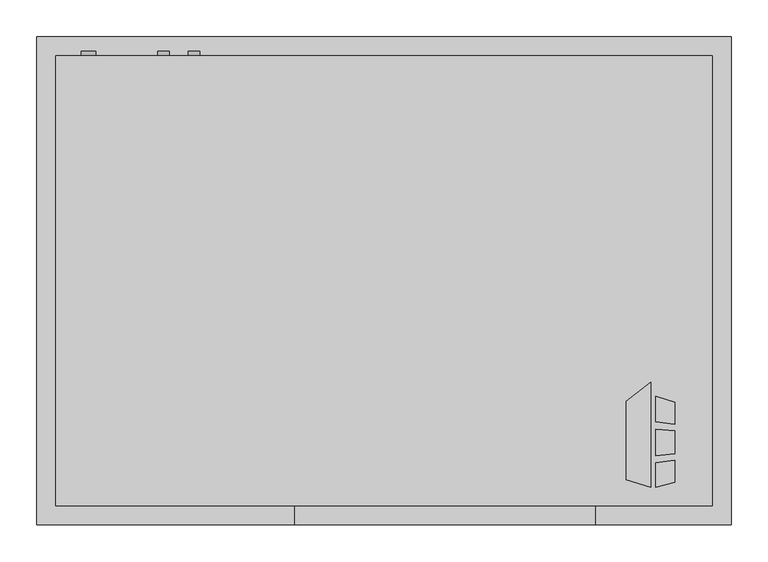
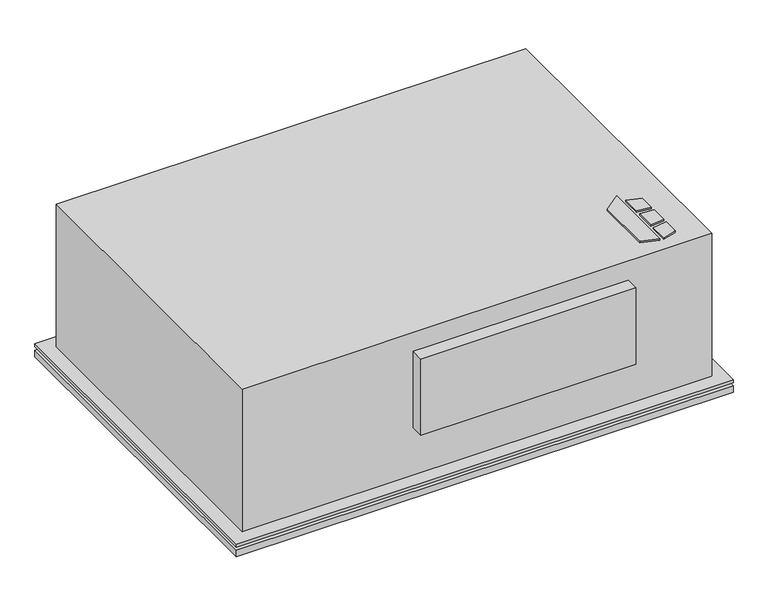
"""IFC4 building model written with IfcOpenShell, lengths in millimetres: proxy geometry, Horizontal_Telescoping_Fan_Coil_Unit_-_CBY_-_IEC_-_2-Pipe_Cool-EHeat_LH_2022 : Size 02 - 277v/60Hz/1Ph - 4 Row 2.0kW."""

from ifc_helpers import new_model, si_unit, point, frame, frame_2d, origin, origin_with_axes, place, context, project, spatial, polyline, circle_curve, trimmed, segment, composite_curve, outline, extrude, source, transform, mapped, element, save


def mechanical_equipment_329d961f(model_context):
    return source(origin(), model_context, "Body", "SweptSolid", [
        extrude(outline(polyline([(480.7019761, -401.0078476), (513.2602728, -375.5705184), (513.2602728, -517.525), (480.7019761, -507.3054201), (480.7019761, -401.0078476)])), origin_with_axes(), (0.0, 0.0, 1.0), 3.175),
        extrude(outline(polyline([(520.0186058, -428.879852), (520.0186058, -394.3999379), (546.1, -402.5865115), (546.1, -432.0822446), (520.0186058, -428.879852)])), origin_with_axes(), (0.0, 0.0, 1.0), 3.175),
        extrude(outline(polyline([(546.1, -510.5365115), (520.0186058, -517.525), (520.0186058, -484.3036996), (546.1, -480.7618564), (546.1, -510.5365115)])), origin_with_axes(), (0.0, 0.0, 1.0), 3.175),
        extrude(outline(polyline([(546.1, -441.1638277), (546.1, -472.413983), (520.0186058, -475.155248), (520.0186058, -439.2975378), (546.1, -441.1638277)])), origin_with_axes(), (0.0, 0.0, 1.0), 3.175),
        extrude(outline(composite_curve([segment(trimmed(circle_curve(frame_2d((-55.9967777, -104.775)), 7.9375), [point((-55.9967777, -96.8375))], [point((-55.9967777, -112.7125))], False, "CARTESIAN"), True, "CONTINUOUS"), segment(trimmed(circle_curve(frame_2d((-55.9967777, -104.775)), 7.9375), [point((-55.9967777, -112.7125))], [point((-55.9967777, -96.8375))], False, "CARTESIAN"), True, "CONTINUOUS")], self_intersect=False)), frame((0.0, 66.675, 0.0), z_axis=(0.0, 1.0, 0.0), x_axis=(0.0, 0.0, 1.0)), (0.0, 0.0, 1.0), 6.35),
        extrude(outline(composite_curve([segment(trimmed(circle_curve(frame_2d((-122.5981268, -146.05)), 7.9375), [point((-122.5981268, -138.1125))], [point((-122.5981268, -153.9875))], False, "CARTESIAN"), True, "CONTINUOUS"), segment(trimmed(circle_curve(frame_2d((-122.5981268, -146.05)), 7.9375), [point((-122.5981268, -153.9875))], [point((-122.5981268, -138.1125))], False, "CARTESIAN"), True, "CONTINUOUS")], self_intersect=False)), frame((0.0, 66.675, 0.0), z_axis=(0.0, 1.0, 0.0), x_axis=(0.0, 0.0, 1.0)), (0.0, 0.0, 1.0), 6.35),
        extrude(outline(composite_curve([segment(trimmed(circle_curve(frame_2d((-247.6037358, -247.65)), 9.525), [point((-247.6037358, -238.125))], [point((-247.6037358, -257.175))], False, "CARTESIAN"), True, "CONTINUOUS"), segment(trimmed(circle_curve(frame_2d((-247.6037358, -247.65)), 9.525), [point((-247.6037358, -257.175))], [point((-247.6037358, -238.125))], False, "CARTESIAN"), True, "CONTINUOUS")], self_intersect=False)), frame((0.0, 66.675, 0.0), z_axis=(0.0, 1.0, 0.0), x_axis=(0.0, 0.0, 1.0)), (0.0, 0.0, 1.0), 6.35),
        extrude(outline(polyline([(622.3, 92.075), (622.3, -568.325), (-317.5, -568.325), (-317.5, 92.075), (622.3, 92.075)])), frame((0.0, 0.0, -311.15), z_axis=(0.0, 0.0, 1.0), x_axis=(1.0, 0.0, 0.0)), (0.0, 0.0, 1.0), 12.7),
        extrude(outline(polyline([(622.3, 92.075), (622.3, -568.325), (-317.5, -568.325), (-317.5, 92.075), (622.3, 92.075)])), frame((0.0, 0.0, -292.1), z_axis=(0.0, 0.0, 1.0), x_axis=(1.0, 0.0, 0.0)), (0.0, 0.0, 1.0), 6.35),
        extrude(outline(polyline([(596.9, 66.675), (596.9, -542.925), (-292.1, -542.925), (-292.1, 66.675), (596.9, 66.675)])), frame((0.0, 0.0, -298.45), z_axis=(0.0, 0.0, 1.0), x_axis=(1.0, 0.0, 0.0)), (0.0, 0.0, 1.0), 6.35),
        extrude(outline(polyline([(438.15, -568.325), (31.75, -568.325), (31.75, -542.925), (438.15, -542.925), (438.15, -568.325)])), frame((0.0, 0.0, -190.5), z_axis=(0.0, 0.0, 1.0), x_axis=(1.0, 0.0, 0.0)), (0.0, 0.0, 1.0), 152.4),
        extrude(outline(polyline([(-292.1, 66.675), (596.9, 66.675), (596.9, -542.925), (-292.1, -542.925), (-292.1, 66.675)])), frame((0.0, 0.0, -285.75), z_axis=(0.0, 0.0, 1.0), x_axis=(1.0, 0.0, 0.0)), (0.0, 0.0, 1.0), 285.75),
        extrude(outline(polyline([(508.0, -9.525), (508.0, -263.525), (-203.2, -263.525), (-203.2, -9.525), (508.0, -9.525)])), frame((0.0, 0.0, -317.5), z_axis=(0.0, 0.0, 1.0), x_axis=(1.0, 0.0, 0.0)), (0.0, 0.0, 1.0), 6.35),
    ])


if __name__ == "__main__":
    model = new_model("IFC4")
    model_context = context("Model", 3, world=origin())
    ifc_project = project(units=[si_unit("LENGTHUNIT", "METRE", prefix="MILLI")], contexts=[model_context])
    site = spatial("IfcSite", under=ifc_project)
    building = spatial("IfcBuilding", under=site)
    placement = place(None, origin())
    mechanical_equipment_shape = mechanical_equipment_329d961f(model_context)
    element("IfcBuildingElementProxy", 1, Name="Horizontal_Telescoping_Fan_Coil_Unit_-_CBY_-_IEC_-_2-Pipe_Cool-EHeat_LH_2022 : Size 02 - 277v/60Hz/1Ph - 4 Row 2.0kW", ObjectType="Horizontal_Telescoping_Fan_Coil_Unit_-_CBY_-_IEC_-_2-Pipe_Cool-EHeat_LH_2022 : Size 02 - 277v/60Hz/1Ph - 4 Row 2.0kW", at=placement, inside=building, context=model_context, shape_type="MappedRepresentation", body=[
        mapped(mechanical_equipment_shape, transform((0.0, 0.0, 0.0), x_axis=(1.0, 0.0, 0.0), y_axis=(0.0, 1.0, 0.0), z_axis=(0.0, 0.0, 1.0))),
    ])
    save(model, "model.ifc")
